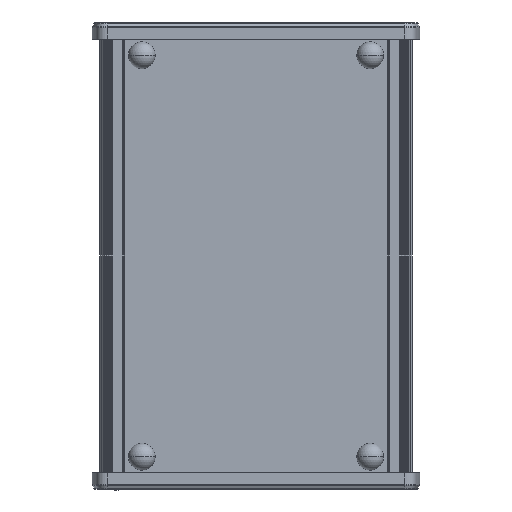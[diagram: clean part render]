
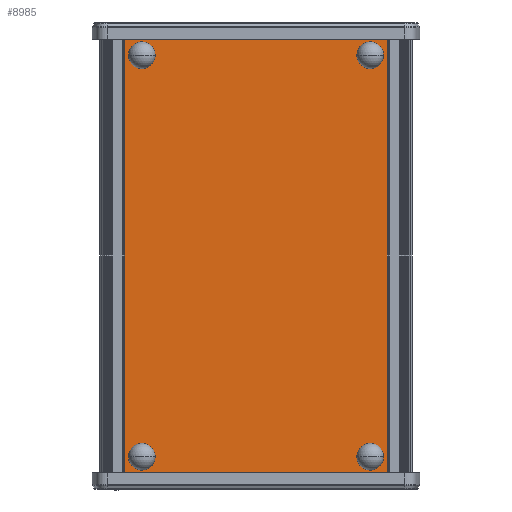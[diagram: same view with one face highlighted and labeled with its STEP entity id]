
A CAD part, front view. The second image highlights one B-rep face of the part: STEP entity #8985.
In plain terms, the highlighted planar face has unit normal (0, -1, 0).
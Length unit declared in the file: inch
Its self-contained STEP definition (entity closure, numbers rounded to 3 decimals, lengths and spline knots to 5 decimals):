
#1422 = VECTOR ( 'NONE', #9146, 39.37008 ) ;
#1466 = LINE ( 'NONE', #17674, #8623 ) ;
#1656 = LINE ( 'NONE', #15696, #1422 ) ;
#2685 = DIRECTION ( 'NONE',  ( -1., 0., 0. ) ) ;
#3018 = VERTEX_POINT ( 'NONE', #4921 ) ;
#3501 = CARTESIAN_POINT ( 'NONE',  ( 2.31296, -0.68898, 3.93701 ) ) ;
#4102 = EDGE_LOOP ( 'NONE', ( #12498, #8027, #12818, #4244 ) ) ;
#4244 = ORIENTED_EDGE ( 'NONE', *, *, #18691, .T. ) ;
#4921 = CARTESIAN_POINT ( 'NONE',  ( -2.31296, -0.68898, -3.93701 ) ) ;
#5088 = LINE ( 'NONE', #3501, #12214 ) ;
#5862 = DIRECTION ( 'NONE',  ( 0., 1., 0. ) ) ;
#7501 = PLANE ( 'NONE',  #12656 ) ;
#7540 = LINE ( 'NONE', #15349, #10739 ) ;
#8027 = ORIENTED_EDGE ( 'NONE', *, *, #11255, .F. ) ;
#8315 = DIRECTION ( 'NONE',  ( 0., 0., -1. ) ) ;
#8623 = VECTOR ( 'NONE', #15055, 39.37008 ) ;
#8985 = ADVANCED_FACE ( 'NONE', ( #12798 ), #7501, .F. ) ;
#9146 = DIRECTION ( 'NONE',  ( 1., 0., 0. ) ) ;
#10739 = VECTOR ( 'NONE', #17072, 39.37008 ) ;
#10740 = EDGE_CURVE ( 'NONE', #19416, #17179, #1656, .T. ) ;
#11255 = EDGE_CURVE ( 'NONE', #17179, #17057, #5088, .T. ) ;
#12214 = VECTOR ( 'NONE', #8315, 39.37008 ) ;
#12498 = ORIENTED_EDGE ( 'NONE', *, *, #15871, .T. ) ;
#12656 = AXIS2_PLACEMENT_3D ( 'NONE', #16873, #5862, #2685 ) ;
#12798 = FACE_OUTER_BOUND ( 'NONE', #4102, .T. ) ;
#12818 = ORIENTED_EDGE ( 'NONE', *, *, #10740, .F. ) ;
#13889 = CARTESIAN_POINT ( 'NONE',  ( 2.31296, -0.68898, 3.93701 ) ) ;
#15055 = DIRECTION ( 'NONE',  ( 1., 0., 0. ) ) ;
#15349 = CARTESIAN_POINT ( 'NONE',  ( -2.31296, -0.68898, 3.93701 ) ) ;
#15696 = CARTESIAN_POINT ( 'NONE',  ( -2.31296, -0.68898, 3.93701 ) ) ;
#15871 = EDGE_CURVE ( 'NONE', #3018, #17057, #1466, .T. ) ;
#16551 = CARTESIAN_POINT ( 'NONE',  ( 2.31296, -0.68898, -3.93701 ) ) ;
#16873 = CARTESIAN_POINT ( 'NONE',  ( -2.31296, -0.68898, 3.93701 ) ) ;
#17057 = VERTEX_POINT ( 'NONE', #16551 ) ;
#17072 = DIRECTION ( 'NONE',  ( 0., 0., -1. ) ) ;
#17179 = VERTEX_POINT ( 'NONE', #13889 ) ;
#17614 = CARTESIAN_POINT ( 'NONE',  ( -2.31296, -0.68898, 3.93701 ) ) ;
#17674 = CARTESIAN_POINT ( 'NONE',  ( -2.31296, -0.68898, -3.93701 ) ) ;
#18691 = EDGE_CURVE ( 'NONE', #19416, #3018, #7540, .T. ) ;
#19416 = VERTEX_POINT ( 'NONE', #17614 ) ;
